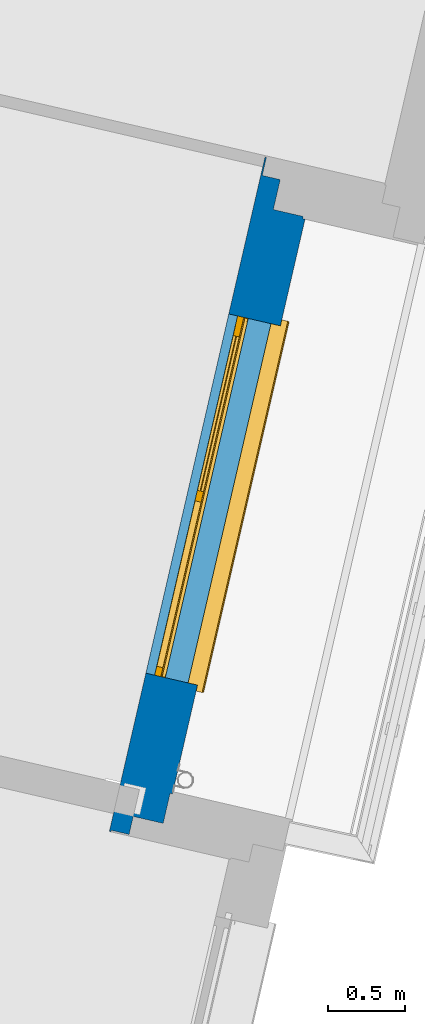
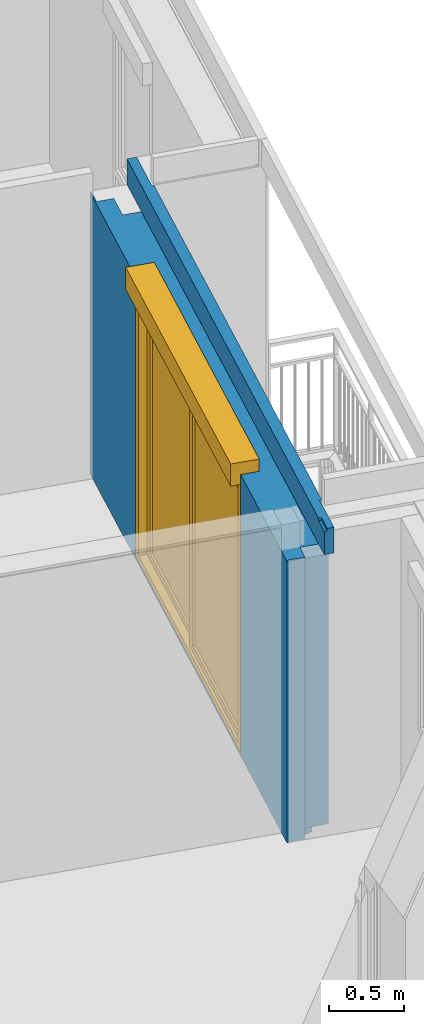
# One storey, part 16 of 91: 1 wall, 1 window, 1 opening.
"""IFC2X3 building model written with IfcOpenShell, lengths in metres."""

from ifc_helpers import new_model, entity, si_unit, converted_unit, derived_unit, money_unit, direction, frame, origin_with_axes, place, context, subcontext, project, spatial, open_shell, faceted_brep, surface_model, source, transform, mapped, material, material_list, type_object, element, fill, save


model = new_model("IFC2X3")

# Units and contexts
model_context = context("Model", 3, precision=1e-05, world=origin_with_axes(), true_north=direction((0.0, 1.0)))
body_context = subcontext(model_context, "Body", "Model", "MODEL_VIEW")
ifc_project = project(units=[si_unit("LENGTHUNIT", "METRE"), si_unit("AREAUNIT", "SQUARE_METRE"), si_unit("VOLUMEUNIT", "CUBIC_METRE"), converted_unit("PLANEANGLEUNIT", "DEGREE", entity("IfcPlaneAngleMeasure", 0.0174532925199), si_unit("PLANEANGLEUNIT", "RADIAN"), dimensions=[0, 0, 0, 0, 0, 0, 0]), si_unit("SOLIDANGLEUNIT", "STERADIAN"), money_unit("EUR"), converted_unit("TIMEUNIT", "Year", entity("IfcTimeMeasure", 31556926.0), si_unit("TIMEUNIT", "SECOND"), dimensions=[0, 0, 1, 0, 0, 0, 0]), si_unit("MASSUNIT", "GRAM", prefix="KILO"), si_unit("THERMODYNAMICTEMPERATUREUNIT", "DEGREE_CELSIUS"), si_unit("LUMINOUSINTENSITYUNIT", "LUMEN"), si_unit("ENERGYUNIT", "JOULE", prefix="MEGA"), derived_unit("THERMALCONDUCTANCEUNIT", [(si_unit("POWERUNIT", "WATT"), 1), (si_unit("LENGTHUNIT", "METRE"), -1), (si_unit("THERMODYNAMICTEMPERATUREUNIT", "KELVIN"), -1)]), derived_unit("SPECIFICHEATCAPACITYUNIT", [(si_unit("ENERGYUNIT", "JOULE"), 1), (si_unit("MASSUNIT", "GRAM", prefix="KILO"), -1), (si_unit("THERMODYNAMICTEMPERATUREUNIT", "KELVIN"), -1)]), derived_unit("MASSDENSITYUNIT", [(si_unit("MASSUNIT", "GRAM", prefix="KILO"), 1), (si_unit("VOLUMEUNIT", "CUBIC_METRE"), -1)])], contexts=[model_context])

# Site, building, storey
site_placement = place(None, origin_with_axes())
site = spatial("IfcSite", under=ifc_project, at=site_placement, Name="Site", CompositionType="ELEMENT")
building_placement = place(site_placement, origin_with_axes())
building = spatial("IfcBuilding", under=site, at=building_placement, Name="Bâtiment", CompositionType="ELEMENT")
storey_placement = place(building_placement, frame((0.0, 0.0, 5.44), z_axis=(0.0, 0.0, 1.0), x_axis=(1.0, 0.0, 0.0)))
storey = spatial("IfcBuildingStorey", under=building, at=storey_placement, Name="R+2", CompositionType="ELEMENT", Elevation=5.44)

# Wall, opening, window
ifc_material_1 = material(Name="Finition ext - Crépis")
ifc_material_2 = material(Name="Béton cellulaire")
ifc_material_3 = material(Name="Mortier")
ifc_material_4 = material(Name="Isolation - Polystyrène expansé")
ifc_material_5 = material(Name="Bloc ELITHERM")
ifc_material_6 = material(Name="Isolation - Polystyrène extrudé")
ifc_material_7 = material(Name="Finition int - Plaque de plâtre")
ifc_material_list = material_list([ifc_material_1, ifc_material_2, ifc_material_3, ifc_material_4, ifc_material_5, ifc_material_6, ifc_material_7])
wall_type = type_object("IfcWallType", Name="Mur ALKERN + planelle 21 345 x 2720", PredefinedType="USERDEFINED")
wall_placement = place(storey_placement, frame((-7.01710271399, -13.9285111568, -0.21), z_axis=(0.0, 0.0, 1.0), x_axis=(-0.224876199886, -0.97438734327, 0.0)))
wall = element("IfcWall", 1, at=wall_placement, inside=storey, type_object=wall_type, material=ifc_material_list, Name="Mue bloc ALKERN isolé", ObjectType="SOLIDWALL", context=body_context, shape_type="Brep", body=[
    faceted_brep([(0.712503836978, 0.0, 0.23), (0.712503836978, -4.07605282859e-09, 0.209999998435), (0.0, -4.80268713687e-10, 0.209999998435), (0.0, 0.0, 2.71999999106), (3.84000767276, 0.0, 2.71999999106), (3.84000767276, -1.90488975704e-08, 0.21), (3.82500767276, -1.97838869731e-08, 0.209999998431), (3.11250383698, -1.61881028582e-08, 0.209999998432), (3.11250383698, 0.0, 0.23), (3.11250383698, 0.0, 2.43), (0.712503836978, 0.0, 2.43), (0.712503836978, -0.0149999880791, 0.23), (0.712503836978, -0.0149999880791, 0.209999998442), (0.712503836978, -0.0149999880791, 2.43), (0.0, -0.0149999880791, 0.209999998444), (0.0, -0.0149999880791, 2.71999999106), (3.84000767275, -0.0149999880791, 2.71999999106), (3.84000767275, -0.0149999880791, 0.21), (3.82500767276, -0.0149999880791, 0.209999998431), (3.11250383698, -0.0149999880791, 0.209999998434), (3.11250383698, -0.0149999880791, 0.23), (3.11250383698, -0.0149999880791, 2.43)], [[[0, 1, 2, 3, 4, 5, 6, 7, 8, 9, 10]], [[11, 12, 1, 0, 10, 13]], [[1, 12, 14, 2]], [[3, 2, 14, 15]], [[4, 3, 15, 16]], [[16, 17, 5, 4]], [[6, 5, 17, 18]], [[19, 7, 6, 18]], [[8, 7, 19, 20, 21, 9]], [[9, 21, 13, 10]], [[12, 11, 13, 21, 20, 19, 18, 17, 16, 15, 14]]]),
    faceted_brep([(4.17000764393, -0.0629999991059, 2.72000000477), (4.17000764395, -0.015, 2.72000000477), (-0.344999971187, -0.015, 2.72000000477), (-0.34499997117, -0.0629999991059, 2.72000000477), (4.17000764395, -0.015, 2.51999999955), (4.17000764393, -0.0629999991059, 2.51999999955), (-0.344999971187, -0.015, 2.51999999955), (-0.34499997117, -0.0629999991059, 2.51999999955)], [[[0, 1, 2, 3]], [[4, 1, 0, 5]], [[1, 4, 6, 2]], [[3, 2, 6, 7]], [[5, 0, 3, 7]], [[4, 5, 7, 6]]]),
    faceted_brep([(4.17000764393, -0.083, 2.52), (4.17000764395, -0.015, 2.52), (-0.344999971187, -0.015, 2.52), (-0.344999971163, -0.083, 2.52), (4.17000764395, -0.015, 2.51), (4.17000764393, -0.083, 2.51), (-0.344999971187, -0.015, 2.51), (-0.344999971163, -0.083, 2.51)], [[[0, 1, 2, 3]], [[4, 1, 0, 5]], [[1, 4, 6, 2]], [[3, 2, 6, 7]], [[5, 0, 3, 7]], [[4, 5, 7, 6]]]),
    faceted_brep([(4.04000759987, -0.083000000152, 2.72000000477), (4.04000760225, -0.0630000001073, 2.72000000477), (-0.34499997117, -0.0630000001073, 2.72000000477), (-0.344999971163, -0.083000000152, 2.72000000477), (4.04000760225, -0.0630000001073, 2.7), (4.04000759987, -0.083000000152, 2.7), (4.17000764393, -0.0630000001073, 2.7), (4.17000764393, -0.0630000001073, 2.51999999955), (-0.34499997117, -0.0630000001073, 2.51999999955), (-0.344999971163, -0.083000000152, 2.51999999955), (4.17000764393, -0.083000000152, 2.51999999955), (4.17000764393, -0.083000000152, 2.7)], [[[0, 1, 2, 3]], [[4, 1, 0, 5]], [[4, 6, 7, 8, 2, 1]], [[9, 3, 2, 8]], [[5, 0, 3, 9, 10, 11]], [[6, 4, 5, 11]], [[6, 11, 10, 7]], [[8, 7, 10, 9]]]),
    faceted_brep([(0.712503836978, -0.214999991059, 0.23), (0.712503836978, -0.214999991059, 0.17), (0.712503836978, -0.0629999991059, 0.17), (0.712503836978, -0.0629999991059, 0.20999999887), (0.712503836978, -0.015, 0.209999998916), (0.712503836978, -0.015, 0.23), (0.712503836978, -0.015, 2.43), (0.712503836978, -0.214999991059, 2.43), (-0.0149999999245, -0.214999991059, 0.0), (3.82500767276, -0.214999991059, 0.0), (3.82500767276, -0.214999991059, 0.209999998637), (4.04000768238, -0.214999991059, 0.21), (4.04000768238, -0.214999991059, 2.50999999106), (-0.0149999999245, -0.214999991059, 2.50999999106), (3.11250383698, -0.214999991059, 2.43), (3.11250383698, -0.214999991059, 0.23), (3.11250383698, -0.214999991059, 0.17), (3.11250383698, -0.0629999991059, 0.17), (3.11250383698, -0.0629999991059, 0.209999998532), (3.82500767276, -0.0629999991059, 0.209999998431), (3.82500767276, -0.0629999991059, 0.00999999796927), (-0.0149999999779, -0.0629999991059, 0.00999999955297), (-0.0149999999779, -0.0629999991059, 0.209999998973), (-0.0149999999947, -0.015, 0.20999999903), (3.11250383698, -0.015, 0.209999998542), (3.11250383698, -0.015, 0.23), (3.11250383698, -0.015, 2.43), (-0.0149999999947, -0.015, 2.50999999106), (4.04000768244, -0.015, 2.50999999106), (4.04000768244, -0.015, 0.21), (3.82500767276, -0.015, 0.209999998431), (-0.0149999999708, -0.0830000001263, 0.0), (3.82500767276, -0.0830000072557, 4.21703205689e-09), (3.82500767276, -0.0830000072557, 0.00999998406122), (4.04000768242, -0.0829999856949, 2.50999999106), (-0.0149999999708, -0.0829999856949, 2.50999999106), (-0.0149999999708, -0.0830000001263, 0.00999999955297)], [[[0, 1, 2, 3, 4, 5, 6, 7]], [[8, 9, 10, 11, 12, 13], [1, 0, 7, 14, 15, 16]], [[17, 2, 1, 16]], [[17, 18, 19, 20, 21, 22, 3, 2]], [[4, 3, 22, 23]], [[24, 25, 26, 6, 5, 4, 23, 27, 28, 29, 30]], [[26, 14, 7, 6]], [[9, 8, 31, 32]], [[20, 19, 10, 9, 32, 33]], [[10, 19, 30, 29, 11]], [[11, 29, 28, 34, 12]], [[35, 13, 12, 34]], [[23, 22, 21, 36, 31, 8, 13, 35, 27]], [[25, 24, 18, 17, 16, 15, 14, 26]], [[18, 24, 30, 19]], [[33, 36, 21, 20]], [[27, 35, 34, 28]], [[33, 32, 31, 36]]]),
    faceted_brep([(0.712503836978, -0.245, 0.23), (0.712503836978, -0.215000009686, 0.23), (0.712503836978, -0.215, 2.43), (0.712503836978, -0.245, 2.43), (0.712503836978, -0.215000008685, 0.209999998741), (0.712503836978, -0.286, 0.23), (0.712503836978, -0.286, 0.209999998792), (-0.0830000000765, -0.215000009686, 0.209999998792), (-0.21500000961, -0.215000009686, 0.21), (-0.21500000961, -0.215000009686, 2.50999999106), (0.712503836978, -0.215, 2.50999999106), (0.712503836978, -0.335000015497, 2.50999999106), (0.712503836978, -0.335000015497, 2.43), (0.712503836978, -0.335000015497, 0.23), (3.11250383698, -0.286, 0.23), (3.11250383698, -0.286, 0.209999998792), (3.11250383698, -0.215000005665, 0.209999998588), (3.82500767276, -0.215000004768, 0.209999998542), (3.82500767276, -0.335000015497, 0.209999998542), (-0.0830000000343, -0.335000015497, 0.209999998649), (-0.215000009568, -0.335000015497, 0.21), (-0.215000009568, -0.335000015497, 2.50999999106), (3.11250383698, -0.335000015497, 2.43), (3.11250383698, -0.335000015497, 0.23), (4.16000768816, -0.335000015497, 0.21), (4.16000768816, -0.335000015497, 2.50999999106), (3.11250383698, -0.335000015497, 2.50999999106), (3.11250383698, -0.245, 0.23), (3.11250383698, -0.215000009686, 0.23), (3.11250383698, -0.215, 2.43), (3.11250383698, -0.215, 2.50999999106), (4.16000768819, -0.215000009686, 2.50999999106), (4.16000768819, -0.215000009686, 0.21), (3.11250383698, -0.245, 2.43)], [[[0, 1, 2, 3]], [[4, 1, 0, 5, 6]], [[1, 4, 7, 8, 9, 10, 2]], [[11, 12, 3, 2, 10]], [[5, 0, 3, 12, 13]], [[5, 14, 15, 6]], [[15, 16, 17, 18, 19, 7, 4, 6]], [[8, 7, 19, 20]], [[20, 21, 9, 8]], [[10, 9, 21, 11]], [[22, 23, 13, 12, 11, 21, 20, 19, 18, 24, 25, 26]], [[14, 5, 13, 23]], [[27, 28, 16, 15, 14]], [[16, 28, 29, 30, 31, 32, 17]], [[18, 17, 32, 24]], [[27, 14, 23, 22, 33]], [[24, 32, 31, 25]], [[26, 25, 31, 30]], [[29, 33, 22, 26, 30]], [[28, 27, 33, 29]]]),
    faceted_brep([(0.712503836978, -0.335000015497, 2.50999999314), (0.712503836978, -0.335000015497, 2.43), (0.712503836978, -0.335000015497, 0.23), (3.11250383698, -0.335000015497, 0.23), (3.11250383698, -0.335000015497, 2.43), (3.11250383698, -0.335000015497, 2.5099999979), (4.17000764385, -0.335000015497, 2.51), (4.17000764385, -0.335000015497, 0.209999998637), (3.82500767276, -0.335000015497, 0.209999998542), (-0.0830000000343, -0.335000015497, 0.209999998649), (-0.33500001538, -0.335000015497, 0.21), (-0.33500001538, -0.335000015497, 2.50999999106), (0.712503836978, -0.34499998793, 2.50999999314), (0.712503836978, -0.344999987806, 2.43), (0.712503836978, -0.344999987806, 0.23), (3.11250383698, -0.344999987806, 0.23), (3.11250383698, -0.344999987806, 2.43), (3.11250383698, -0.34499998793, 2.5099999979), (4.17000764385, -0.34499998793, 2.51), (4.17000764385, -0.344999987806, 0.209999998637), (3.82500767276, -0.344999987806, 0.209999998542), (-0.0149999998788, -0.344999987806, 0.209999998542), (-0.0830000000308, -0.344999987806, 0.209999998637), (-0.335000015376, -0.34499998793, 0.21), (-0.335000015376, -0.34499998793, 2.50999999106)], [[[0, 1, 2, 3, 4, 5, 6, 7, 8, 9, 10, 11]], [[1, 0, 12, 13]], [[1, 13, 14, 2]], [[2, 14, 15, 3]], [[16, 4, 3, 15]], [[17, 5, 4, 16]], [[5, 17, 18, 6]], [[19, 7, 6, 18]], [[7, 19, 20, 8]], [[9, 8, 20, 21, 22]], [[22, 23, 10, 9]], [[11, 10, 23, 24]], [[12, 0, 11, 24]], [[13, 12, 24, 23, 22, 21, 20, 19, 18, 17, 16, 15, 14]]]),
])
opening_placement = place(wall_placement, frame((1.91250383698, 0.0, 0.23), z_axis=(0.0, 0.0, 1.0), x_axis=(1.0, 0.0, 0.0)))
opening = element("IfcOpeningElement", 2, at=opening_placement, cuts=wall, Name="MEN 95", context=body_context, shape_type="Brep", body=[
    faceted_brep([(-1.2, -0.245, 0.0), (1.2, -0.245, 0.0), (1.2, -0.83499998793, 0.0), (-1.2, -0.83499998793, 0.0), (-1.2, -0.245, 2.2), (1.2, -0.245, 2.2), (1.2, -0.83499998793, 2.2), (-1.2, -0.83499998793, 2.2)], [[[0, 1, 2, 3]], [[0, 4, 5, 1]], [[1, 5, 6, 2]], [[3, 2, 6, 7]], [[4, 0, 3, 7]], [[5, 4, 7, 6]]]),
    faceted_brep([(-1.2, -0.245, 0.0), (-1.2, -0.245, 2.2), (-1.2, 0.34499998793, 2.2), (-1.2, 0.34499998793, 0.0), (1.2, -0.245, 0.0), (1.2, -0.245, 2.2), (1.2, 0.34499998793, 2.2), (1.2, 0.34499998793, 0.0)], [[[0, 1, 2, 3]], [[0, 4, 5, 1]], [[1, 5, 6, 2]], [[3, 2, 6, 7]], [[4, 0, 3, 7]], [[5, 4, 7, 6]]]),
    faceted_brep([(-1.2, -0.245, 0.0), (-1.2, -0.245, 2.2), (-1.2, 0.34499998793, 2.2), (-1.2, 0.34499998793, 0.0), (1.2, -0.245, 0.0), (1.2, -0.245, 2.2), (1.2, 0.34499998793, 2.2), (1.2, 0.34499998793, 0.0)], [[[0, 1, 2, 3]], [[0, 4, 5, 1]], [[1, 5, 6, 2]], [[3, 2, 6, 7]], [[4, 0, 3, 7]], [[5, 4, 7, 6]]]),
    faceted_brep([(-1.2, -0.215, 2.2), (1.2, -0.215, 2.2), (1.2, -0.80499998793, 2.2), (-1.2, -0.80499998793, 2.2), (-1.2, -0.215, 2.38), (1.2, -0.215, 2.38), (1.2, -0.80499998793, 2.38), (-1.2, -0.80499998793, 2.38)], [[[0, 1, 2, 3]], [[0, 4, 5, 1]], [[1, 5, 6, 2]], [[3, 2, 6, 7]], [[4, 0, 3, 7]], [[5, 4, 7, 6]]]),
    faceted_brep([(-1.2, -0.286, 0.0), (1.2, -0.286, 0.0), (1.2, 0.30399998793, 0.0), (-1.2, 0.30399998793, 0.0), (-1.2, -0.286, -0.06), (1.2, -0.286, -0.06), (1.2, 0.30399998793, -0.06), (-1.2, 0.30399998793, -0.06)], [[[0, 1, 2, 3]], [[0, 4, 5, 1]], [[1, 5, 6, 2]], [[3, 2, 6, 7]], [[4, 0, 3, 7]], [[5, 4, 7, 6]]]),
])
window_style = type_object("IfcWindowStyle", Name="Baie générique 2017 v2", ConstructionType="NOTDEFINED", OperationType="NOTDEFINED", ParameterTakesPrecedence=False, Sizeable=False)
shared_shape = source(origin_with_axes(), body_context, "Body", "SurfaceModel", [
    faceted_brep([(1.2, 0.1, 0.0), (1.2, 0.0, 0.0), (-1.2, 0.0, 0.0), (-1.2, 0.1, 0.0), (1.2, 0.1, 2.2), (1.2, 0.0, 2.2), (-1.2, 0.0, 2.2), (1.14, 0.0, 0.05), (-1.14, 0.0, 0.05), (-1.14, 0.0, 2.15), (1.14, 0.0, 2.15), (-1.2, 0.1, 2.2), (1.14, 0.1, 0.05), (1.14, 0.1, 2.15), (-1.14, 0.1, 2.15), (-1.14, 0.1, 0.05)], [[[0, 1, 2, 3]], [[4, 5, 1, 0]], [[1, 5, 6, 2], [7, 8, 9, 10]], [[3, 2, 6, 11]], [[0, 3, 11, 4], [12, 13, 14, 15]], [[11, 6, 5, 4]], [[15, 8, 7, 12]], [[14, 9, 8, 15]], [[13, 10, 9, 14]], [[12, 7, 10, 13]]]),
    faceted_brep([(1.14, 0.04, 0.05), (-0.035, 0.04, 0.05), (-0.035, 0.04, 2.15), (1.14, 0.04, 2.15), (0.035, 0.04, 2.08), (0.035, 0.04, 0.1), (1.07, 0.04, 0.1), (1.07, 0.04, 2.08), (-0.035, 0.02, 0.05), (1.14, 0.02, 0.05), (1.14, 0.0, 0.05), (-0.035, 0.0, 0.05), (-0.035, 0.02, 2.15), (-0.035, 0.0, 2.15), (1.14, 0.0, 2.15), (1.14, 0.02, 2.15), (0.035, 0.0, 2.08), (0.035, 0.0, 0.1), (1.07, 0.0, 0.1), (1.07, 0.0, 2.08)], [[[0, 1, 2, 3], [4, 5, 6, 7]], [[8, 1, 0, 9, 10, 11]], [[12, 2, 1, 8, 11, 13]], [[13, 14, 15, 3, 2, 12]], [[14, 10, 9, 0, 3, 15]], [[4, 16, 17, 5]], [[17, 18, 6, 5]], [[18, 19, 7, 6]], [[7, 19, 16, 4]], [[13, 11, 10, 14], [17, 16, 19, 18]]]),
    surface_model("IfcShellBasedSurfaceModel", [(1.14, 0.04, 0.05), (-0.035, 0.04, 0.05), (-0.035, 0.04, 2.15), (1.14, 0.04, 2.15), (1.07, 0.04, 0.1), (1.07, 0.04, 2.08), (0.035, 0.04, 2.08), (0.035, 0.04, 0.1)], [open_shell([[[0, 1, 2, 3], [4, 5, 6, 7]]])]),
    surface_model("IfcShellBasedSurfaceModel", [(1.14, 0.0, 0.05), (-0.035, 0.0, 0.05), (-0.035, 0.0, 2.15), (1.14, 0.0, 2.15), (1.07, 0.0, 0.1), (1.07, 0.0, 2.08), (0.035, 0.0, 2.08), (0.035, 0.0, 0.1)], [open_shell([[[0, 1, 2, 3], [4, 5, 6, 7]]])]),
    faceted_brep([(1.07, 0.0225, 0.1), (1.07, 0.0175, 0.1), (0.035, 0.0175, 0.1), (0.035, 0.0225, 0.1), (1.07, 0.0225, 2.08), (1.07, 0.0175, 2.08), (0.035, 0.0175, 2.08), (0.035, 0.0225, 2.08)], [[[0, 1, 2, 3]], [[4, 5, 1, 0]], [[1, 5, 6, 2]], [[3, 2, 6, 7]], [[0, 3, 7, 4]], [[7, 6, 5, 4]]]),
    faceted_brep([(0.035, 0.08, 0.05), (-1.14, 0.08, 0.05), (-1.14, 0.08, 2.15), (0.035, 0.08, 2.15), (-1.07, 0.08, 2.08), (-1.07, 0.08, 0.1), (-0.035, 0.08, 0.1), (-0.035, 0.08, 2.08), (-1.14, 0.06, 0.05), (0.035, 0.06, 0.05), (0.035, 0.04, 0.05), (-1.14, 0.04, 0.05), (-1.14, 0.06, 2.15), (-1.14, 0.04, 2.15), (0.035, 0.04, 2.15), (0.035, 0.06, 2.15), (-1.07, 0.04, 2.08), (-1.07, 0.04, 0.1), (-0.035, 0.04, 0.1), (-0.035, 0.04, 2.08)], [[[0, 1, 2, 3], [4, 5, 6, 7]], [[8, 1, 0, 9, 10, 11]], [[12, 2, 1, 8, 11, 13]], [[13, 14, 15, 3, 2, 12]], [[14, 10, 9, 0, 3, 15]], [[4, 16, 17, 5]], [[17, 18, 6, 5]], [[18, 19, 7, 6]], [[7, 19, 16, 4]], [[13, 11, 10, 14], [17, 16, 19, 18]]]),
    surface_model("IfcShellBasedSurfaceModel", [(0.035, 0.08, 0.05), (-1.14, 0.08, 0.05), (-1.14, 0.08, 2.15), (0.035, 0.08, 2.15), (-0.035, 0.08, 0.1), (-0.035, 0.08, 2.08), (-1.07, 0.08, 2.08), (-1.07, 0.08, 0.1)], [open_shell([[[0, 1, 2, 3], [4, 5, 6, 7]]])]),
    surface_model("IfcShellBasedSurfaceModel", [(0.035, 0.04, 0.05), (-1.14, 0.04, 0.05), (-1.14, 0.04, 2.15), (0.035, 0.04, 2.15), (-0.035, 0.04, 0.1), (-0.035, 0.04, 2.08), (-1.07, 0.04, 2.08), (-1.07, 0.04, 0.1)], [open_shell([[[0, 1, 2, 3], [4, 5, 6, 7]]])]),
    faceted_brep([(-0.035, 0.0625, 0.1), (-0.035, 0.0575, 0.1), (-1.07, 0.0575, 0.1), (-1.07, 0.0625, 0.1), (-0.035, 0.0625, 2.08), (-0.035, 0.0575, 2.08), (-1.07, 0.0575, 2.08), (-1.07, 0.0625, 2.08)], [[[0, 1, 2, 3]], [[4, 5, 1, 0]], [[1, 5, 6, 2]], [[3, 2, 6, 7]], [[0, 3, 7, 4]], [[7, 6, 5, 4]]]),
    faceted_brep([(1.2, -0.03, 0.0), (1.2, -0.03, 2.2), (1.175, -0.03, 2.2), (1.175, -0.03, 0.0), (1.2, -0.002, 0.0), (1.2, -0.002, 2.2), (1.175, -0.002, 2.2), (1.175, -0.004, 2.2), (1.198, -0.004, 2.2), (1.198, -0.028, 2.2), (1.175, -0.028, 2.2), (1.175, -0.028, 0.0), (1.198, -0.028, 0.0), (1.198, -0.004, 0.0), (1.175, -0.004, 0.0), (1.175, -0.002, 0.0)], [[[0, 1, 2, 3]], [[4, 5, 1, 0]], [[1, 5, 6, 7, 8, 9, 10, 2]], [[3, 2, 10, 11]], [[0, 3, 11, 12, 13, 14, 15, 4]], [[15, 6, 5, 4]], [[14, 7, 6, 15]], [[13, 8, 7, 14]], [[12, 9, 8, 13]], [[11, 10, 9, 12]]]),
    faceted_brep([(-1.2, -0.03, 0.0), (-1.175, -0.03, 0.0), (-1.175, -0.03, 2.2), (-1.2, -0.03, 2.2), (-1.2, -0.002, 0.0), (-1.175, -0.002, 0.0), (-1.175, -0.004, 0.0), (-1.198, -0.004, 0.0), (-1.198, -0.028, 0.0), (-1.175, -0.028, 0.0), (-1.175, -0.028, 2.2), (-1.198, -0.028, 2.2), (-1.198, -0.004, 2.2), (-1.175, -0.004, 2.2), (-1.175, -0.002, 2.2), (-1.2, -0.002, 2.2)], [[[0, 1, 2, 3]], [[0, 4, 5, 6, 7, 8, 9, 1]], [[1, 9, 10, 2]], [[3, 2, 10, 11, 12, 13, 14, 15]], [[4, 0, 3, 15]], [[5, 4, 15, 14]], [[6, 5, 14, 13]], [[7, 6, 13, 12]], [[8, 7, 12, 11]], [[9, 8, 11, 10]]]),
    faceted_brep([(-1.198, -0.028, 2.2), (-1.198, -0.028, 2.378), (1.198, -0.028, 2.378), (1.198, -0.028, 2.2), (-1.198, -0.03, 2.2), (-1.198, -0.03, 2.38), (-1.198, 0.17, 2.38), (-1.198, 0.17, 2.2), (-1.198, 0.168, 2.2), (-1.198, 0.168, 2.378), (1.198, 0.168, 2.378), (1.198, 0.168, 2.2), (1.198, 0.17, 2.2), (1.198, 0.17, 2.38), (1.198, -0.03, 2.38), (1.198, -0.03, 2.2)], [[[0, 1, 2, 3]], [[0, 4, 5, 6, 7, 8, 9, 1]], [[1, 9, 10, 2]], [[3, 2, 10, 11, 12, 13, 14, 15]], [[4, 0, 3, 15]], [[5, 4, 15, 14]], [[6, 5, 14, 13]], [[7, 6, 13, 12]], [[8, 7, 12, 11]], [[9, 8, 11, 10]]]),
    faceted_brep([(-1.198, 0.0724697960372, 2.27436337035), (-1.198, 0.0555495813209, 2.27050144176), (-1.198, 0.041980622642, 2.28132232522), (-1.198, 0.041980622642, 2.29867767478), (-1.198, 0.0555495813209, 2.30949855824), (-1.198, 0.0724697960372, 2.30563662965), (-1.198, 0.08, 2.29), (1.198, 0.0724697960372, 2.27436337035), (1.198, 0.0555495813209, 2.27050144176), (1.198, 0.041980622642, 2.28132232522), (1.198, 0.041980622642, 2.29867767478), (1.198, 0.0555495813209, 2.30949855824), (1.198, 0.0724697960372, 2.30563662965), (1.198, 0.08, 2.29)], [[[0, 1, 2, 3, 4, 5, 6]], [[1, 0, 7, 8]], [[2, 1, 8, 9]], [[3, 2, 9, 10]], [[4, 3, 10, 11]], [[5, 4, 11, 12]], [[6, 5, 12, 13]], [[0, 6, 13, 7]], [[7, 13, 12, 11, 10, 9, 8]]]),
    faceted_brep([(-1.188, 0.130275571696, 2.25615706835), (-1.188, 0.108632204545, 2.22901714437), (-1.188, 0.0773566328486, 2.21395562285), (-1.188, 0.0426433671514, 2.21395562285), (-1.188, 0.011367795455, 2.22901714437), (-1.188, -0.0102755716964, 2.25615706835), (-1.188, -0.018, 2.29), (-1.188, -0.0102755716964, 2.32384293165), (-1.188, 0.011367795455, 2.35098285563), (-1.188, 0.0426433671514, 2.36604437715), (-1.188, 0.0773566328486, 2.36604437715), (-1.188, 0.108632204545, 2.35098285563), (-1.188, 0.130275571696, 2.32384293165), (-1.188, 0.138, 2.29), (1.188, 0.130275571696, 2.25615706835), (1.188, 0.108632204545, 2.22901714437), (1.188, 0.0773566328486, 2.21395562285), (1.188, 0.0426433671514, 2.21395562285), (1.188, 0.011367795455, 2.22901714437), (1.188, -0.0102755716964, 2.25615706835), (1.188, -0.018, 2.29), (1.188, -0.0102755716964, 2.32384293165), (1.188, 0.011367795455, 2.35098285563), (1.188, 0.0426433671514, 2.36604437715), (1.188, 0.0773566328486, 2.36604437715), (1.188, 0.108632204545, 2.35098285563), (1.188, 0.130275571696, 2.32384293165), (1.188, 0.138, 2.29)], [[[0, 1, 2, 3, 4, 5, 6, 7, 8, 9, 10, 11, 12, 13]], [[1, 0, 14, 15]], [[2, 1, 15, 16]], [[3, 2, 16, 17]], [[4, 3, 17, 18]], [[5, 4, 18, 19]], [[6, 5, 19, 20]], [[7, 6, 20, 21]], [[8, 7, 21, 22]], [[9, 8, 22, 23]], [[10, 9, 23, 24]], [[11, 10, 24, 25]], [[12, 11, 25, 26]], [[13, 12, 26, 27]], [[0, 13, 27, 14]], [[14, 27, 26, 25, 24, 23, 22, 21, 20, 19, 18, 17, 16, 15]]]),
    faceted_brep([(-1.2, 0.17, 2.2), (-1.2, 0.17, 2.38), (-1.198, 0.17, 2.38), (-1.198, 0.17, 2.2), (-1.2, -0.03, 2.2), (-1.2, -0.03, 2.38), (-1.198, -0.03, 2.38), (-1.198, -0.03, 2.2)], [[[0, 1, 2, 3]], [[0, 4, 5, 1]], [[1, 5, 6, 2]], [[3, 2, 6, 7]], [[4, 0, 3, 7]], [[5, 4, 7, 6]]]),
    faceted_brep([(1.198, 0.17, 2.2), (1.198, 0.17, 2.38), (1.2, 0.17, 2.38), (1.2, 0.17, 2.2), (1.198, -0.03, 2.2), (1.198, -0.03, 2.38), (1.2, -0.03, 2.38), (1.2, -0.03, 2.2)], [[[0, 1, 2, 3]], [[0, 4, 5, 1]], [[1, 5, 6, 2]], [[3, 2, 6, 7]], [[4, 0, 3, 7]], [[5, 4, 7, 6]]]),
    faceted_brep([(-1.198, -0.004, 2.2), (-1.198, 0.168, 2.2), (1.198, 0.168, 2.2), (1.198, -0.004, 2.2), (-1.198, -0.004, 2.202), (-1.198, 0.168, 2.202), (1.198, 0.168, 2.202), (1.198, -0.004, 2.202)], [[[0, 1, 2, 3]], [[0, 4, 5, 1]], [[1, 5, 6, 2]], [[3, 2, 6, 7]], [[4, 0, 3, 7]], [[5, 4, 7, 6]]]),
    faceted_brep([(-1.188, -0.006, 2.2), (-1.188, -0.006, 2.29), (1.188, -0.006, 2.29), (1.188, -0.006, 2.2), (-1.188, -0.026, 2.2), (-1.188, -0.026, 2.29), (1.188, -0.026, 2.29), (1.188, -0.026, 2.2)], [[[0, 1, 2, 3]], [[1, 0, 4, 5]], [[2, 1, 5, 6]], [[3, 2, 6, 7]], [[4, 0, 3, 7]], [[5, 4, 7, 6]]]),
    faceted_brep([(-1.2, -0.00167949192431, -0.01), (1.2, -0.00167949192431, -0.01), (1.2, 0.0, -0.00373205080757), (1.24, 0.0, -0.00373205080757), (1.24, 0.001, 0.0), (-1.24, 0.001, 0.0), (-1.24, 0.0, -0.00373205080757), (-1.2, 0.0, -0.00373205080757), (-1.2, -0.009, -0.0173205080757), (1.2, -0.009, -0.0173205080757), (1.2, -0.245, -0.02), (1.2, -0.245, -0.06), (1.2, 0.0, -0.06), (1.2, -0.019, -0.02), (1.24, 0.0, -0.06), (1.24, 0.041, -0.06), (1.24, 0.041, 0.0), (-1.24, 0.041, 0.0), (-1.24, 0.041, -0.06), (-1.24, 0.0, -0.06), (-1.2, 0.0, -0.06), (-1.2, -0.245, -0.06), (-1.2, -0.245, -0.02), (-1.2, -0.019, -0.02), (1.24, -0.245, -0.02), (1.24, -0.245, -0.06), (1.24, -0.275, -0.06), (-1.24, -0.275, -0.06), (-1.24, -0.245, -0.06), (-1.24, -0.245, -0.02), (-1.24, -0.285, -0.02), (1.24, -0.285, -0.02), (1.24, -0.295, -0.03), (1.24, -0.295, -0.06), (1.24, -0.285, -0.06), (1.24, -0.285, -0.05), (1.24, -0.275, -0.05), (1.24, -0.292071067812, -0.0229289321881), (-1.24, -0.275, -0.05), (-1.24, -0.285, -0.05), (-1.24, -0.285, -0.06), (-1.24, -0.295, -0.06), (-1.24, -0.295, -0.03), (-1.24, -0.292071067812, -0.0229289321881)], [[[0, 1, 2, 3, 4, 5, 6, 7]], [[8, 9, 1, 0]], [[10, 11, 12, 2, 1, 9, 13]], [[3, 2, 12, 14]], [[4, 3, 14, 15, 16]], [[16, 17, 5, 4]], [[6, 5, 17, 18, 19]], [[19, 20, 7, 6]], [[7, 20, 21, 22, 23, 8, 0]], [[23, 13, 9, 8]], [[10, 24, 25, 11]], [[21, 20, 19, 18, 15, 14, 12, 11, 25, 26, 27, 28]], [[22, 29, 30, 31, 24, 10, 13, 23]], [[15, 18, 17, 16]], [[22, 21, 28, 29]], [[32, 33, 34, 35, 36, 26, 25, 24, 31, 37]], [[36, 38, 27, 26]], [[28, 27, 38, 39, 40, 41, 42, 43, 30, 29]], [[31, 30, 43, 37]], [[32, 42, 41, 33]], [[33, 41, 40, 34]], [[34, 40, 39, 35]], [[35, 39, 38, 36]], [[37, 43, 42, 32]]]),
])
window_placement = place(opening_placement, frame((1.2, 0.0, 0.0), z_axis=(0.0, 0.0, 1.0), x_axis=(-1.0, 0.0, 0.0)))
window = element("IfcWindow", 3, at=window_placement, inside=storey, type_object=window_style, Name="MEN 95", ObjectType="WINDOW", OverallHeight=2.2, OverallWidth=2.4, context=body_context, shape_type="MappedRepresentation", body=[
    mapped(shared_shape, transform((1.2, 0.245, 0.0))),
])
fill(opening, window)

save(model, "model.ifc")
